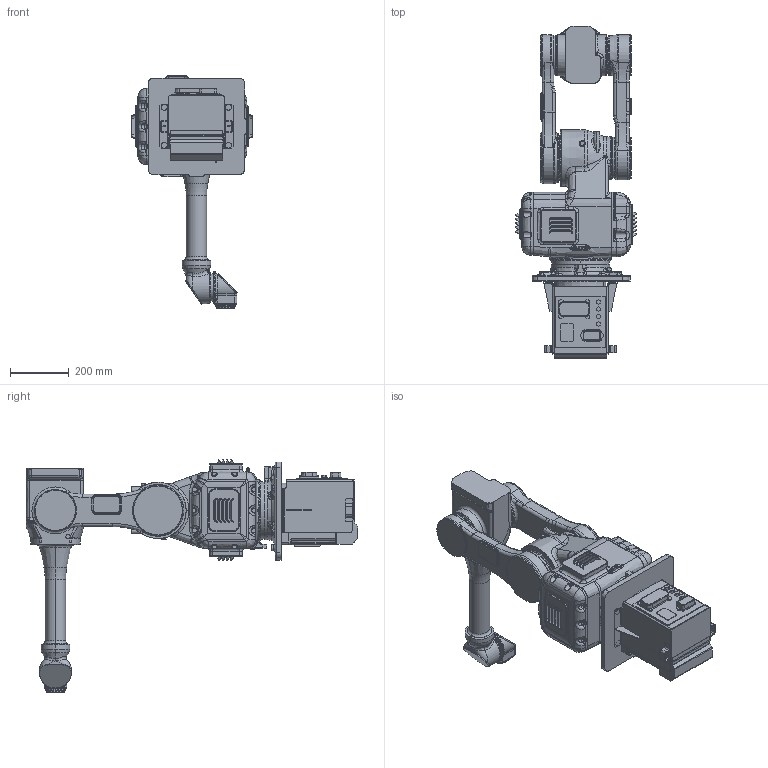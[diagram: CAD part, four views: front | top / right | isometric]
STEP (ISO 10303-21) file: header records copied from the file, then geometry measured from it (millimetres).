
FILE_DESCRIPTION(/* description */ (''),/* implementation_level */ '2;1');
FILE_NAME(/* name */ 'MPK2-B01-neu.stp',/* time_stamp */ '2011-03-01T21:55:10+01:00',/* author */ (''),/* organization */ (''),/* preprocessor_version */ 'ST-DEVELOPER v11',/* originating_system */ 'SIEMENS UGS NX 6.0',/* authorisation */ '');
FILE_SCHEMA (('AUTOMOTIVE_DESIGN { 1 0 10303 214 1 1 1 1 }'));
Products named in the file (7): base-axis; b-axis; l-axis; s-axis; t-axis; u-axis; MPK2-B01-Komponenten
Assembly tree (6 placements, depth 2):
  MPK2-B01-Komponenten
    u-axis
    t-axis
    s-axis
    l-axis
    b-axis
    base-axis
Bounding box: 415.4 x 1132.3 x 792.2 mm (x, y, z)
Volume: 51736372.4 mm3; surface area: 2523879.6 mm2
Topology: 8 solids, 13 shells, 2690 faces, 6645 edges, 4077 vertices
Faces by surface type: bspline 1989, cylinder 239, plane 221, cone 107, torus 92, extrusion 30, sphere 12
Entity records: 191736 total; most frequent: CARTESIAN_POINT 125553, ORIENTED_EDGE 13250, EDGE_CURVE 6625, B_SPLINE_CURVE_WITH_KNOTS 5158, VERTEX_POINT 4075, DIRECTION 3640, EDGE_LOOP 2818, ADVANCED_FACE 2688
